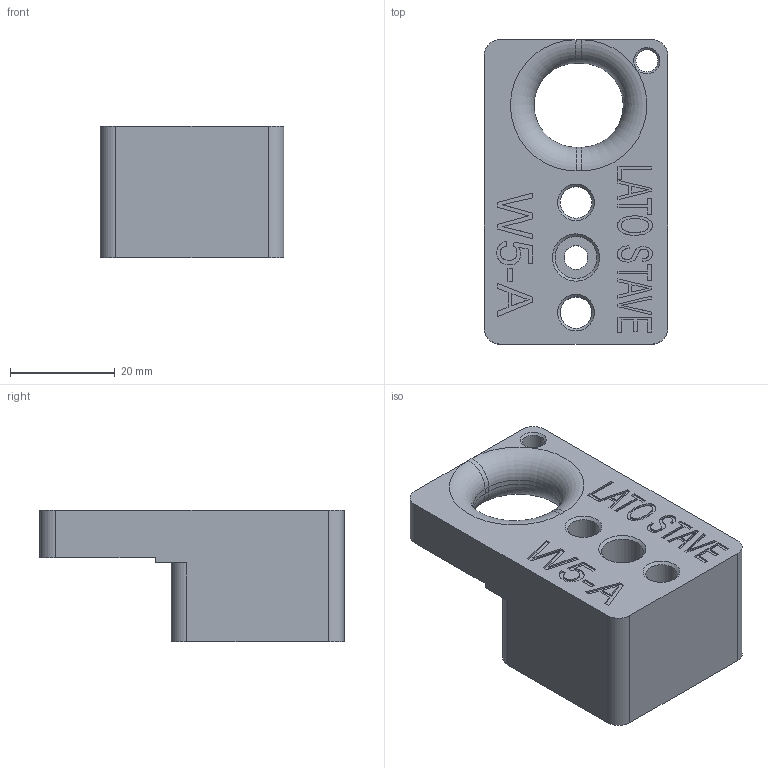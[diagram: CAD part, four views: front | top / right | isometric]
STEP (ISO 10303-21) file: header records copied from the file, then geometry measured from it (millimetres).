
FILE_DESCRIPTION(/* description */ (''),/* implementation_level */ '2;1');
FILE_NAME(/* name */ 'WHEELS-INSERT.02.stp',/* time_stamp */ '2018-05-25T14:03:23+02:00',/* author */ (''),/* organization */ (''),/* preprocessor_version */ 'ST-DEVELOPER v16.7',/* originating_system */ 'SIEMENS PLM Software NX 12.0',/* authorisation */ '');
FILE_SCHEMA (('AP203_CONFIGURATION_CONTROLLED_3D_DESIGN_OF_MECHANICAL_PARTS_AND_ASSEMBLIES_MIM_LF { 1 0 10303 403 2 1 2}'));
Length unit declared in the file: millimetre
Products named in the file (1): turc66A81BAD9zbb
Bounding box: 35 x 58 x 25 mm (x, y, z)
Volume: 31783.6 mm3; surface area: 9373.8 mm2
Topology: 1 solids, 1 shells, 177 faces, 458 edges, 299 vertices
Faces by surface type: plane 118, extrusion 24, cylinder 19, cone 12, torus 4
Full cylindrical faces by diameter (mm): 4.2 x3, 4.5 x1, 6 x2, 8 x1
Entity records: 6016 total; most frequent: CARTESIAN_POINT 2078, ORIENTED_EDGE 864, DIRECTION 596, EDGE_CURVE 432, VERTEX_POINT 294, B_SPLINE_CURVE_WITH_KNOTS 246, EDGE_LOOP 222, AXIS2_PLACEMENT_3D 208
